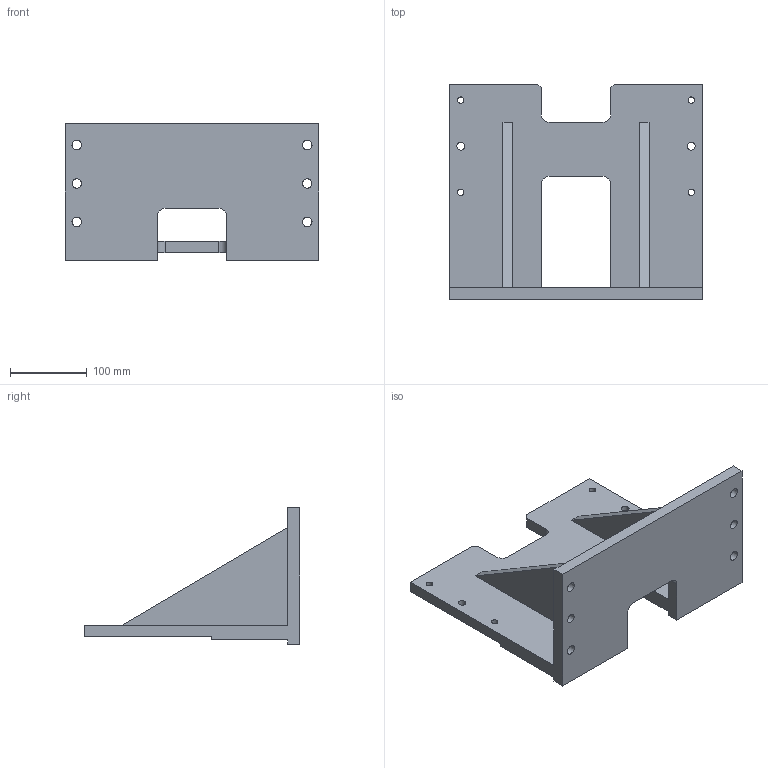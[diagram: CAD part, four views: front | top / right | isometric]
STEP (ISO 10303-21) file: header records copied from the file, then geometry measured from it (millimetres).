
FILE_DESCRIPTION(/* description */ ('DB4-RISER'),/* implementation_level */ '2;1');
FILE_NAME(/* name */ 'C:\Vault Workspace\CAD\Welker\Shot Pin\DBL40\S01896 DB4 Mounting Accessories\S01896E02\S01896E02-200.stp',/* time_stamp */ '2016-05-04T13:49:03-04:00',/* author */ ('klabrecque'),/* organization */ (''),/* preprocessor_version */ 'ST-DEVELOPER v15.2',/* originating_system */ 'Autodesk Inventor 2014',/* authorisation */ '');
FILE_SCHEMA (('AUTOMOTIVE_DESIGN { 1 0 10303 214 3 1 1 }'));
Length unit declared in the file: millimetre
Products named in the file (1): S01896E02-200
Bounding box: 330 x 281 x 177.8 mm (x, y, z)
Volume: 2319408.6 mm3; surface area: 337551.9 mm2
Topology: 1 solids, 1 shells, 50 faces, 162 edges, 112 vertices
Faces by surface type: plane 32, cylinder 18
Full cylindrical faces by diameter (mm): 8.376 x4, 10 x2, 12 x2, 12.5 x4
Entity records: 1753 total; most frequent: CARTESIAN_POINT 289, ORIENTED_EDGE 276, DIRECTION 276, EDGE_CURVE 138, LINE 102, VECTOR 102, VERTEX_POINT 100, AXIS2_PLACEMENT_3D 87
